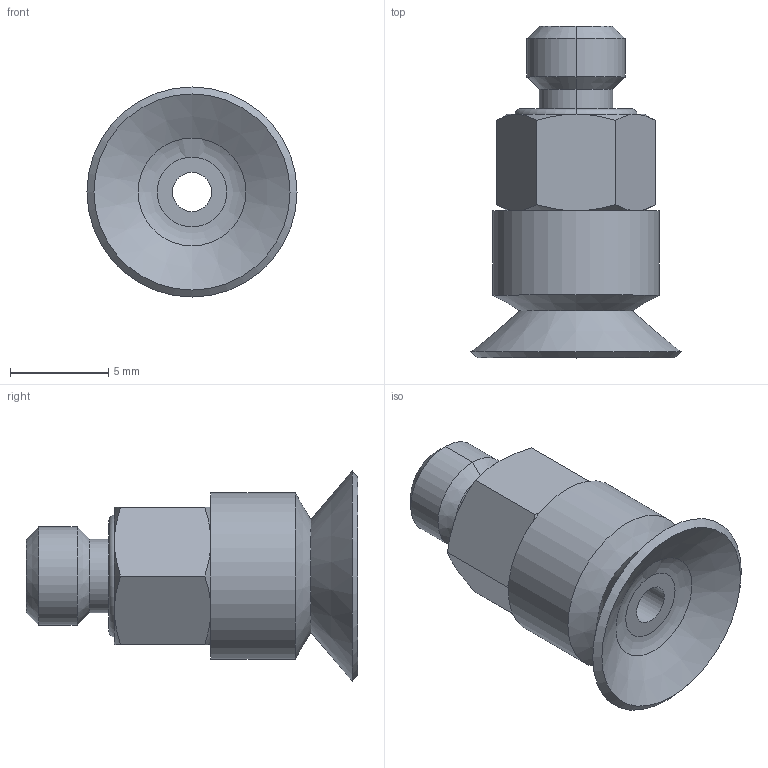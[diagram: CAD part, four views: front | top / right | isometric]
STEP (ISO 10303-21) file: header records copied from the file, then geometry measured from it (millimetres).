
FILE_DESCRIPTION (( 'STEP AP214' ), '1' );
FILE_NAME ('PA10-M5.STEP', '2024-03-19T17:56:19', ( '' ), ( '' ), 'SwSTEP 2.0', 'SolidWorks 2018', '' );
FILE_SCHEMA (( 'AUTOMOTIVE_DESIGN' ));
Length unit declared in the file: inch
Products named in the file (4): 400.005.STEP; PA10-M5; PA10-M5.STEP; PA10.STEP
Assembly tree (3 placements, depth 3):
  PA10-M5
    PA10-M5.STEP
      PA10.STEP
      400.005.STEP
Bounding box: 10.72 x 16.93 x 10.72 mm (x, y, z)
Volume: 580.4 mm3; surface area: 967.6 mm2
Topology: 3 solids, 3 shells, 71 faces, 142 edges, 81 vertices
Faces by surface type: cone 24, cylinder 16, plane 16, torus 14, bspline 1
Full cylindrical faces by diameter (mm): 2 x1, 4 x1, 6 x1, 8.5 x1
Entity records: 2108 total; most frequent: CARTESIAN_POINT 501, DIRECTION 342, ORIENTED_EDGE 262, AXIS2_PLACEMENT_3D 158, EDGE_CURVE 131, EDGE_LOOP 92, CIRCLE 81, VERTEX_POINT 81
